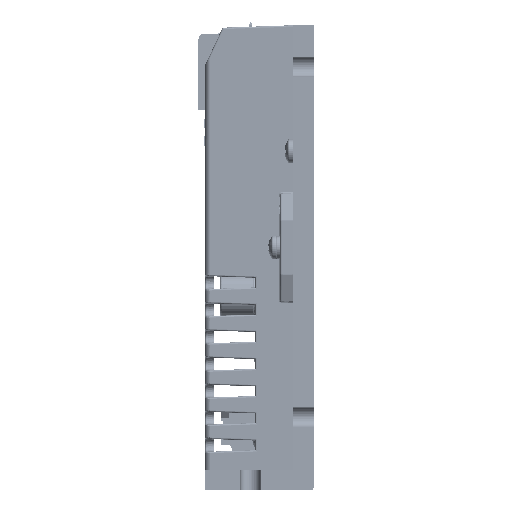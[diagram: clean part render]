
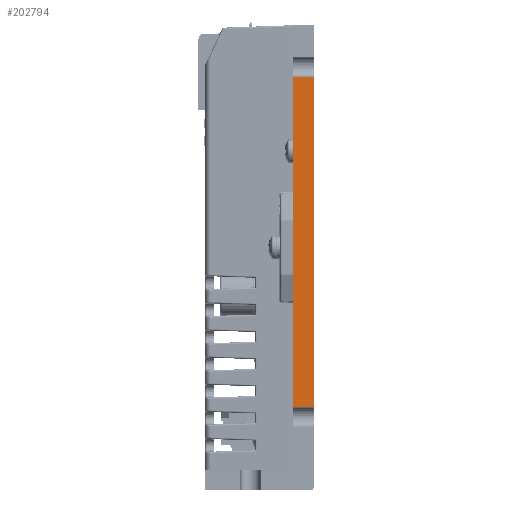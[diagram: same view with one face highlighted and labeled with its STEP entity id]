
A CAD part, left-side view. The second image highlights one B-rep face of the part: STEP entity #202794.
In plain terms, the highlighted planar face has unit normal (-1, 0, 0).
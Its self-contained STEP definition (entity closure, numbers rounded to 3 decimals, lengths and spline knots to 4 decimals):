
#8776=DIRECTION('',(0.,0.,-1.));
#8777=VECTOR('',#8776,3.042);
#8778=CARTESIAN_POINT('',(-47.126,-0.3884,14.0455));
#8779=LINE('',#8778,#8777);
#39588=DIRECTION('',(0.,0.,1.));
#39589=VECTOR('',#39588,0.4946);
#39590=CARTESIAN_POINT('',(-47.126,-0.2009,12.2275));
#39591=LINE('',#39590,#39589);
#39595=DIRECTION('',(0.,0.,-1.));
#39596=VECTOR('',#39595,1.3234);
#39597=CARTESIAN_POINT('',(-47.126,-0.2009,14.0455));
#39598=LINE('',#39597,#39596);
#39602=DIRECTION('',(0.,1.,0.));
#39603=VECTOR('',#39602,0.1875);
#39604=CARTESIAN_POINT('',(-47.126,-0.3884,14.0455));
#39605=LINE('',#39604,#39603);
#39609=DIRECTION('',(0.,-1.,0.));
#39610=VECTOR('',#39609,0.1875);
#39611=CARTESIAN_POINT('',(-47.126,-0.2009,11.0035));
#39612=LINE('',#39611,#39610);
#39616=DIRECTION('',(0.,0.,-1.));
#39617=VECTOR('',#39616,1.224);
#39618=CARTESIAN_POINT('',(-47.126,-0.2009,12.2275));
#39619=LINE('',#39618,#39617);
#153035=CARTESIAN_POINT('',(-47.126,-0.3884,14.0455));
#153036=CARTESIAN_POINT('',(-47.126,-0.2009,14.0455));
#153037=VERTEX_POINT('',#153035);
#153038=VERTEX_POINT('',#153036);
#153135=CARTESIAN_POINT('',(-47.126,-0.2009,11.0035));
#153136=CARTESIAN_POINT('',(-47.126,-0.3884,11.0035));
#153137=VERTEX_POINT('',#153135);
#153138=VERTEX_POINT('',#153136);
#155998=CARTESIAN_POINT('',(-47.126,-0.2009,12.2275));
#155999=CARTESIAN_POINT('',(-47.126,-0.2009,12.7221));
#156000=VERTEX_POINT('',#155998);
#156001=VERTEX_POINT('',#155999);
#202779=CARTESIAN_POINT('',(-47.126,-0.2009,14.5226));
#202780=DIRECTION('',(-1.,0.,0.));
#202781=DIRECTION('',(0.,0.,1.));
#202782=AXIS2_PLACEMENT_3D('',#202779,#202780,#202781);
#202783=PLANE('',#202782);
#202784=ORIENTED_EDGE('',*,*,#202762,.T.);
#202785=ORIENTED_EDGE('',*,*,#163339,.F.);
#202787=ORIENTED_EDGE('',*,*,#202786,.F.);
#202788=ORIENTED_EDGE('',*,*,#165823,.T.);
#202790=ORIENTED_EDGE('',*,*,#202789,.F.);
#202791=ORIENTED_EDGE('',*,*,#163288,.F.);
#202792=EDGE_LOOP('',(#202784,#202785,#202787,#202788,#202790,#202791));
#202793=FACE_OUTER_BOUND('',#202792,.F.);
#163288=EDGE_CURVE('',#156000,#153137,#39619,.T.);
#163339=EDGE_CURVE('',#153038,#156001,#39598,.T.);
#165823=EDGE_CURVE('',#153037,#153138,#8779,.T.);
#202762=EDGE_CURVE('',#156000,#156001,#39591,.T.);
#202786=EDGE_CURVE('',#153037,#153038,#39605,.T.);
#202789=EDGE_CURVE('',#153137,#153138,#39612,.T.);
#202794=ADVANCED_FACE('',(#202793),#202783,.T.);
